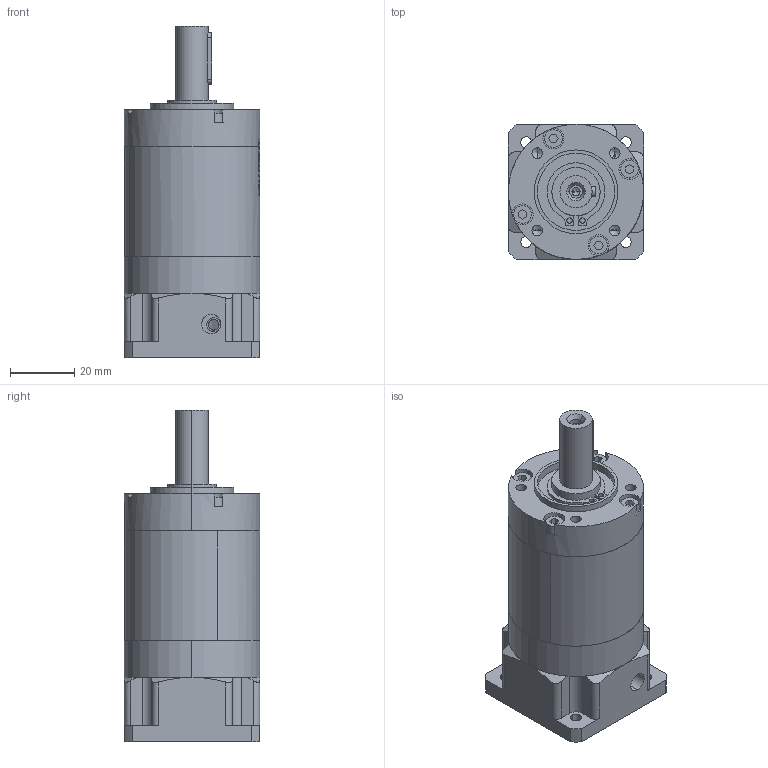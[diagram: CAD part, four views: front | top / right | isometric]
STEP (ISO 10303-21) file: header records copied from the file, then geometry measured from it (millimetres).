
FILE_DESCRIPTION (( 'STEP AP203' ), '1' );
FILE_NAME ('PLE040-L2-5-22-43.8.STEP', '2022-07-01T02:46:53', ( 'Windows User' ), ( 'P R C' ), 'SwSTEP 2.0', 'SolidWorks 2016', '' );
FILE_SCHEMA (( 'CONFIG_CONTROL_DESIGN' ));
Length unit declared in the file: millimetre
Products named in the file (8): PLE040 蟀諉啣 22-3.4-43.8_1; PLE040-L2-5-22-43.8; PLE040 奻屳唳_D1-70 D2-5.5 D3-14 D4-17 D5-50 L1-30 L2-35 L3-3 A1-60 S1-3 S2-20 S3-5 S4-18 B-5 H-16 C-M5 梓袧; PLE040 內齿圈_二级内齿圈; PLE040 狟裔_D6-60 D7-14 梓袧; 邧埴瑩 3x3x16; GB／T70．1-2000内六角圆柱头螺钉M3×12; GB／T276-94深沟球轴承61902-2RZ
Assembly tree (7 placements, depth 2):
  PLE040-L2-5-22-43.8
    PLE040 奻屳唳_D1-70 D2-5.5 D3-14 D4-17 D5-50 L1-30 L2-35 L3-3 A1-60 S1-3 S2-20 S3-5 S4-18 B-5 H-16 C-M5 梓袧
    PLE040 內齿圈_二级内齿圈
    PLE040 狟裔_D6-60 D7-14 梓袧
    邧埴瑩 3x3x16
    GB／T70．1-2000内六角圆柱头螺钉M3×12
    GB／T276-94深沟球轴承61902-2RZ
    PLE040 蟀諉啣 22-3.4-43.8_1
Bounding box: 42 x 42 x 103 mm (x, y, z)
Volume: 100203.4 mm3; surface area: 39491.3 mm2
Topology: 7 solids, 11 shells, 1051 faces, 2867 edges, 1899 vertices
Faces by surface type: plane 564, cylinder 192, bspline 158, sphere 78, torus 45, cone 14
Entity records: 42629 total; most frequent: CARTESIAN_POINT 16301, ORIENTED_EDGE 5654, DIRECTION 4742, EDGE_CURVE 2827, VERTEX_POINT 1879, AXIS2_PLACEMENT_3D 1646, VECTOR 1450, LINE 1450
